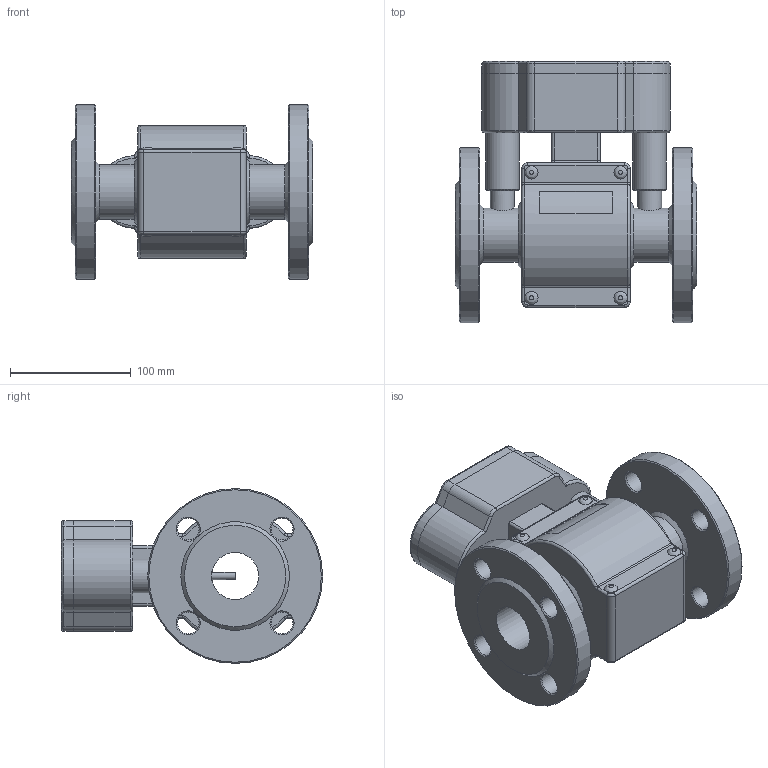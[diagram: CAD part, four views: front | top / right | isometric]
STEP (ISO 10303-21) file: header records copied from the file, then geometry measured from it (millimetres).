
FILE_DESCRIPTION(('STEP AP214'), '1');
FILE_NAME('40 È6', '2015-07-24T11:41:09', (''), (''), 'ASCON STEP Converter 1.3', 'ASCON Math Kernel', '');
FILE_SCHEMA(('AUTOMOTIVE_DESIGN { 1 0 10303 214 3 1 1}'));
Length unit declared in the file: millimetre
Products named in the file (1): 3
Bounding box: 200 x 216.5 x 145 mm (x, y, z)
Volume: 2190025.1 mm3; surface area: 245084.5 mm2
Topology: 2 solids, 2 shells, 495 faces, 1284 edges, 822 vertices
Faces by surface type: cylinder 248, plane 171, torus 36, cone 32, bspline 8
Full cylindrical faces by diameter (mm): 6 x1, 7 x4, 18 x8, 20 x2, 28 x2, 39 x1, 45 x2, 145 x2
Entity records: 22003 total; most frequent: CARTESIAN_POINT 5934, DIRECTION 2758, ORIENTED_EDGE 2440, EDGE_CURVE 1220, AXIS2_PLACEMENT_3D 1081, VERTEX_POINT 822, EDGE_LOOP 610, LINE 596
